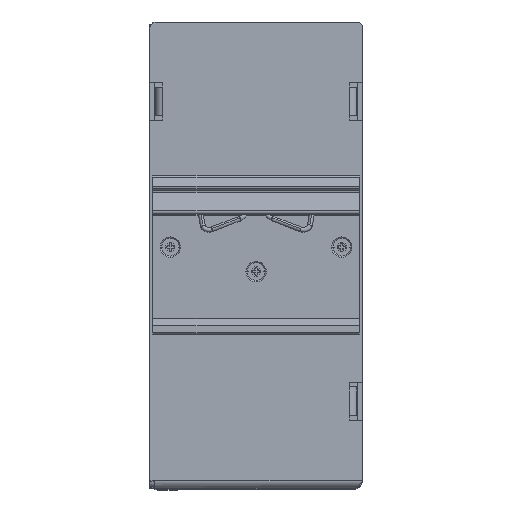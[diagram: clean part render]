
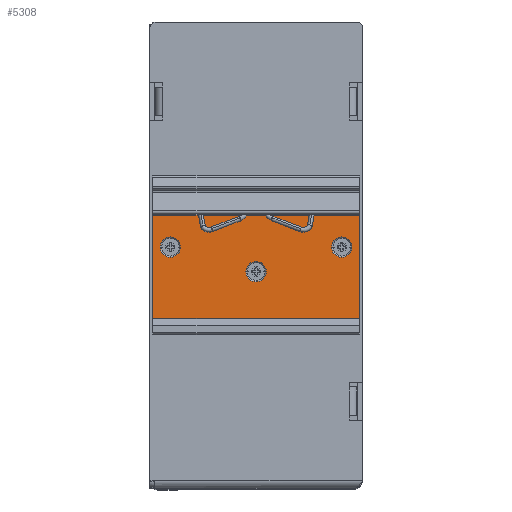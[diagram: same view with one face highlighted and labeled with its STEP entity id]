
A CAD part, top view. The second image highlights one B-rep face of the part: STEP entity #5308.
In plain terms, the highlighted planar face has unit normal (0, 0, 1).
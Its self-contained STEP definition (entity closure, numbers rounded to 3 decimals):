
#349 = CARTESIAN_POINT ( 'NONE',  ( 66.048, -93.32, 125.25 ) ) ;
#1049 = CIRCLE ( 'NONE', #100483, 3.2 ) ;
#1574 = EDGE_CURVE ( 'NONE', #104456, #87013, #74754, .T. ) ;
#3413 = EDGE_CURVE ( 'NONE', #55695, #73549, #139583, .T. ) ;
#5308 = ADVANCED_FACE ( 'NONE', ( #54327, #106018, #37527, #81845 ), #136195, .T. ) ;
#7476 = DIRECTION ( 'NONE',  ( -1., 0., 0. ) ) ;
#10274 = DIRECTION ( 'NONE',  ( 0., 0., 1. ) ) ;
#10491 = CARTESIAN_POINT ( 'NONE',  ( 63.748, -70.95, 125.25 ) ) ;
#10835 = DIRECTION ( 'NONE',  ( 1., 0., 0. ) ) ;
#11909 = CARTESIAN_POINT ( 'NONE',  ( 66.048, -60.95, 125.25 ) ) ;
#12510 = DIRECTION ( 'NONE',  ( 1., 0., 0. ) ) ;
#17497 = EDGE_CURVE ( 'NONE', #117356, #61653, #22989, .T. ) ;
#19517 = CARTESIAN_POINT ( 'NONE',  ( -3.952, -93.32, 125.25 ) ) ;
#21611 = DIRECTION ( 'NONE',  ( 0., 1., 0. ) ) ;
#22989 = CIRCLE ( 'NONE', #125178, 3.2 ) ;
#28446 = DIRECTION ( 'NONE',  ( 0., 0., 1. ) ) ;
#30291 = DIRECTION ( 'NONE',  ( 0., 0., 1. ) ) ;
#30970 = ORIENTED_EDGE ( 'NONE', *, *, #101211, .F. ) ;
#32334 = DIRECTION ( 'NONE',  ( 0., 0., 1. ) ) ;
#36341 = VECTOR ( 'NONE', #21611, 1000. ) ;
#37527 = FACE_BOUND ( 'NONE', #79064, .T. ) ;
#39153 = VERTEX_POINT ( 'NONE', #349 ) ;
#40059 = DIRECTION ( 'NONE',  ( 0., 0., 1. ) ) ;
#40944 = ORIENTED_EDGE ( 'NONE', *, *, #110016, .T. ) ;
#43044 = CARTESIAN_POINT ( 'NONE',  ( 9.748, -70.95, 125.25 ) ) ;
#44920 = CIRCLE ( 'NONE', #147233, 3.2 ) ;
#45544 = CARTESIAN_POINT ( 'NONE',  ( 57.348, -70.95, 125.25 ) ) ;
#50565 = DIRECTION ( 'NONE',  ( 0., 0., 1. ) ) ;
#51091 = CARTESIAN_POINT ( 'NONE',  ( 33.548, -78.65, 125.25 ) ) ;
#51825 = ORIENTED_EDGE ( 'NONE', *, *, #1574, .F. ) ;
#54327 = FACE_BOUND ( 'NONE', #162778, .T. ) ;
#55695 = VERTEX_POINT ( 'NONE', #43044 ) ;
#57745 = EDGE_CURVE ( 'NONE', #175625, #143580, #142581, .T. ) ;
#61136 = CARTESIAN_POINT ( 'NONE',  ( 66.048, -60.95, 125.25 ) ) ;
#61653 = VERTEX_POINT ( 'NONE', #10491 ) ;
#62793 = ORIENTED_EDGE ( 'NONE', *, *, #125247, .F. ) ;
#62870 = LINE ( 'NONE', #61136, #159622 ) ;
#73549 = VERTEX_POINT ( 'NONE', #139236 ) ;
#74082 = CARTESIAN_POINT ( 'NONE',  ( 1.048, -93.32, 125.25 ) ) ;
#74754 = CIRCLE ( 'NONE', #111719, 3.2 ) ;
#75681 = CIRCLE ( 'NONE', #149510, 3.2 ) ;
#79064 = EDGE_LOOP ( 'NONE', ( #62793, #129763 ) ) ;
#80006 = AXIS2_PLACEMENT_3D ( 'NONE', #103971, #50565, #169910 ) ;
#81845 = FACE_OUTER_BOUND ( 'NONE', #126622, .T. ) ;
#86560 = EDGE_CURVE ( 'NONE', #73549, #55695, #44920, .T. ) ;
#87013 = VERTEX_POINT ( 'NONE', #155358 ) ;
#87449 = LINE ( 'NONE', #129314, #171517 ) ;
#92524 = CARTESIAN_POINT ( 'NONE',  ( 6.548, -70.95, 125.25 ) ) ;
#94635 = DIRECTION ( 'NONE',  ( 1., 0., 0. ) ) ;
#100483 = AXIS2_PLACEMENT_3D ( 'NONE', #161112, #28446, #10835 ) ;
#101211 = EDGE_CURVE ( 'NONE', #87013, #104456, #1049, .T. ) ;
#103971 = CARTESIAN_POINT ( 'NONE',  ( 6.548, -70.95, 125.25 ) ) ;
#104456 = VERTEX_POINT ( 'NONE', #157508 ) ;
#106018 = FACE_BOUND ( 'NONE', #150741, .T. ) ;
#107367 = CARTESIAN_POINT ( 'NONE',  ( 1.048, -93.32, 125.25 ) ) ;
#107952 = AXIS2_PLACEMENT_3D ( 'NONE', #137948, #30291, #150469 ) ;
#110016 = EDGE_CURVE ( 'NONE', #126142, #143580, #87449, .T. ) ;
#110660 = EDGE_CURVE ( 'NONE', #175625, #39153, #113801, .T. ) ;
#111719 = AXIS2_PLACEMENT_3D ( 'NONE', #51091, #10274, #94635 ) ;
#113350 = CARTESIAN_POINT ( 'NONE',  ( 60.548, -70.95, 125.25 ) ) ;
#113801 = LINE ( 'NONE', #19517, #146177 ) ;
#113873 = ORIENTED_EDGE ( 'NONE', *, *, #138155, .F. ) ;
#117356 = VERTEX_POINT ( 'NONE', #45544 ) ;
#120961 = DIRECTION ( 'NONE',  ( 0., 0., 1. ) ) ;
#121081 = ORIENTED_EDGE ( 'NONE', *, *, #86560, .F. ) ;
#125178 = AXIS2_PLACEMENT_3D ( 'NONE', #147781, #40059, #134402 ) ;
#125247 = EDGE_CURVE ( 'NONE', #61653, #117356, #75681, .T. ) ;
#126142 = VERTEX_POINT ( 'NONE', #11909 ) ;
#126622 = EDGE_LOOP ( 'NONE', ( #40944, #156550, #163541, #113873 ) ) ;
#129314 = CARTESIAN_POINT ( 'NONE',  ( 71.048, -60.95, 125.25 ) ) ;
#129763 = ORIENTED_EDGE ( 'NONE', *, *, #17497, .F. ) ;
#133635 = ORIENTED_EDGE ( 'NONE', *, *, #3413, .F. ) ;
#134402 = DIRECTION ( 'NONE',  ( 1., 0., 0. ) ) ;
#136195 = PLANE ( 'NONE',  #107952 ) ;
#137948 = CARTESIAN_POINT ( 'NONE',  ( 33.548, -93.32, 125.25 ) ) ;
#138155 = EDGE_CURVE ( 'NONE', #126142, #39153, #62870, .T. ) ;
#139236 = CARTESIAN_POINT ( 'NONE',  ( 3.348, -70.95, 125.25 ) ) ;
#139583 = CIRCLE ( 'NONE', #80006, 3.2 ) ;
#139670 = CARTESIAN_POINT ( 'NONE',  ( 1.048, -60.95, 125.25 ) ) ;
#142581 = LINE ( 'NONE', #74082, #36341 ) ;
#143580 = VERTEX_POINT ( 'NONE', #139670 ) ;
#146177 = VECTOR ( 'NONE', #168106, 1000. ) ;
#147233 = AXIS2_PLACEMENT_3D ( 'NONE', #92524, #120961, #12510 ) ;
#147781 = CARTESIAN_POINT ( 'NONE',  ( 60.548, -70.95, 125.25 ) ) ;
#149510 = AXIS2_PLACEMENT_3D ( 'NONE', #113350, #32334, #167640 ) ;
#150469 = DIRECTION ( 'NONE',  ( 1., 0., 0. ) ) ;
#150741 = EDGE_LOOP ( 'NONE', ( #51825, #30970 ) ) ;
#155358 = CARTESIAN_POINT ( 'NONE',  ( 30.348, -78.65, 125.25 ) ) ;
#156550 = ORIENTED_EDGE ( 'NONE', *, *, #57745, .F. ) ;
#157207 = DIRECTION ( 'NONE',  ( 0., -1., 0. ) ) ;
#157508 = CARTESIAN_POINT ( 'NONE',  ( 36.748, -78.65, 125.25 ) ) ;
#159622 = VECTOR ( 'NONE', #157207, 1000. ) ;
#161112 = CARTESIAN_POINT ( 'NONE',  ( 33.548, -78.65, 125.25 ) ) ;
#162778 = EDGE_LOOP ( 'NONE', ( #133635, #121081 ) ) ;
#163541 = ORIENTED_EDGE ( 'NONE', *, *, #110660, .T. ) ;
#167640 = DIRECTION ( 'NONE',  ( 1., 0., 0. ) ) ;
#168106 = DIRECTION ( 'NONE',  ( 1., 0., 0. ) ) ;
#169910 = DIRECTION ( 'NONE',  ( 1., 0., 0. ) ) ;
#171517 = VECTOR ( 'NONE', #7476, 1000. ) ;
#175625 = VERTEX_POINT ( 'NONE', #107367 ) ;
